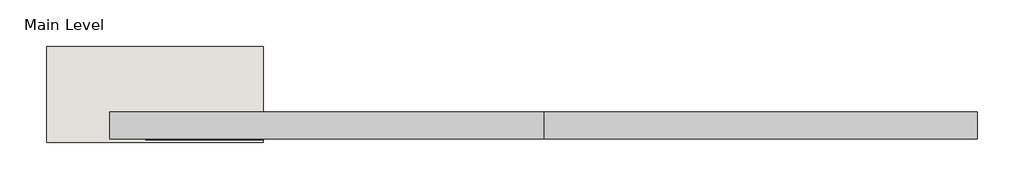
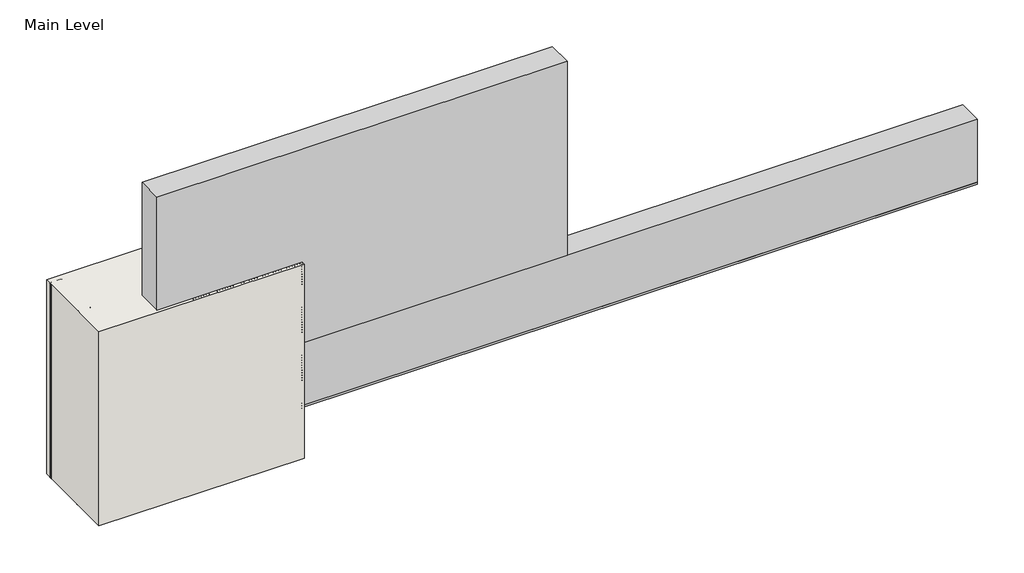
# One storey, incomplete: 5 proxies, 1 wall.
"""IFC4 building model written with IfcOpenShell, lengths in millimetres."""

from ifc_helpers import new_model, si_unit, origin, origin_with_axes, place, context, project, spatial, polyline, outline, extrude, transform, mapped, element, save
from components import generic_models_31547c53, generic_models_4ceaeb6f, generic_models_7232ab98, generic_models_d0d128fb, generic_models_d678dd29, generic_models_6ac29540, proxy_81afb05a, proxy_e5e434bb

model = new_model("IFC4")

# Units and contexts
model_context = context("Model", 3, world=origin())
ifc_project = project(units=[si_unit("LENGTHUNIT", "METRE", prefix="MILLI")], contexts=[model_context])

# Site, building, storey
site = spatial("IfcSite", under=ifc_project)
building = spatial("IfcBuilding", under=site)
storey = spatial("IfcBuildingStorey", under=building, Name="Main Level", Elevation=0.0)

# Proxies
placement = place(None, origin())
generic_models_shape = generic_models_31547c53(model_context)
element("IfcBuildingElementProxy", 1, Name="Durabond Generic Model Sealant Vent : Durabond Generic Model Sealant Vent", ObjectType="Durabond Generic Model Sealant Vent : Durabond Generic Model Sealant Vent", at=placement, inside=storey, context=model_context, shape_type="MappedRepresentation", body=[
    mapped(generic_models_shape, transform((26878.1101773, 564.1316297, 146.84375), x_axis=(1.0, 0.0, 0.0), y_axis=(0.0, 0.0, 1.0), z_axis=(0.0, -1.0, 0.0))),
])
generic_models_2_shape = generic_models_4ceaeb6f(model_context)
element("IfcBuildingElementProxy", 2, Name="CRAi Generic Model Metal Stud Array : CRAi Generic Model Metal Stud Array", ObjectType="CRAi Generic Model Metal Stud Array : CRAi Generic Model Metal Stud Array", at=placement, inside=storey, context=model_context, shape_type="MappedRepresentation", body=[
    mapped(generic_models_2_shape, transform((26692.3726773, 719.7066297, 0.0), x_axis=(-1.0, 0.0, 0.0), y_axis=(0.0, -1.0, 0.0), z_axis=(0.0, 0.0, 1.0))),
])
generic_models_3_shape = generic_models_7232ab98(model_context)
generic_models_4_shape = generic_models_d0d128fb(model_context)
generic_models_5_shape = generic_models_d678dd29(model_context)
generic_models_6_shape = generic_models_6ac29540(model_context)
element("IfcBuildingElementProxy", 3, Name="CRAi Generic Model Mesh Piece Face Based : CRAi Generic Model Mesh Piece Face Based", ObjectType="CRAi Generic Model Mesh Piece Face Based : CRAi Generic Model Mesh Piece Face Based", at=placement, inside=storey, context=model_context, shape_type="MappedRepresentation", body=[
    mapped(generic_models_3_shape, transform((26933.6726773, 541.9066297, 381.0), x_axis=(-1.0, 0.0, 0.0), y_axis=(0.0, 0.0, -1.0), z_axis=(0.0, -1.0, 0.0))),
    mapped(generic_models_4_shape, transform((26933.6726773, 541.9066297, 381.0), x_axis=(-1.0, 0.0, 0.0), y_axis=(0.0, 0.0, -1.0), z_axis=(0.0, -1.0, 0.0))),
    mapped(generic_models_5_shape, transform((26933.6726773, 541.9066297, 381.0), x_axis=(-1.0, 0.0, 0.0), y_axis=(0.0, 0.0, -1.0), z_axis=(0.0, -1.0, 0.0))),
    mapped(generic_models_6_shape, transform((26933.6726773, 541.9066297, 381.0), x_axis=(-1.0, 0.0, 0.0), y_axis=(0.0, 0.0, -1.0), z_axis=(0.0, -1.0, 0.0))),
])
proxy_shape = proxy_81afb05a(model_context)
element("IfcBuildingElementProxy", 4, Name="Durabond Generic Model Equalite Insulation Board : 3\"", ObjectType="Durabond Generic Model Equalite Insulation Board : 3\"", at=placement, inside=storey, context=model_context, shape_type="MappedRepresentation", body=[
    mapped(proxy_shape, transform((27276.5726773, 624.4566297, 660.4), x_axis=(1.0, 0.0, 0.0), y_axis=(0.0, 0.0, 1.0), z_axis=(0.0, -1.0, 0.0))),
])
proxy_2_shape = proxy_e5e434bb(model_context)
element("IfcBuildingElementProxy", 5, Name="Durabond Generic Model Equalite Vent Board : 3\"", ObjectType="Durabond Generic Model Equalite Vent Board : 3\"", at=placement, inside=storey, context=model_context, shape_type="MappedRepresentation", body=[
    mapped(proxy_2_shape, transform((27886.1726773, 624.4566297, 254.0), x_axis=(1.0, 0.0, 0.0), y_axis=(0.0, 0.0, 1.0), z_axis=(0.0, -1.0, 0.0))),
])

# Wall
element("IfcWall", 6, ObjectType="189mm (7.5”) EIFS Field Applied on Mtl. Stud Layer - 50mm Grooved Insulation Board Metal Stud Wall(AirStop) 2", at=placement, inside=storey, context=model_context, shape_type="SweptSolid", body=[
    extrude(outline(polyline([(27098.7726773, 538.7316297), (26489.1726773, 538.7316297), (26489.1726773, 808.6066297), (27098.7726773, 808.6066297), (27098.7726773, 538.7316297)])), origin_with_axes(), (0.0, 0.0, 1.0), 609.6),
])

save(model, "model.ifc")
